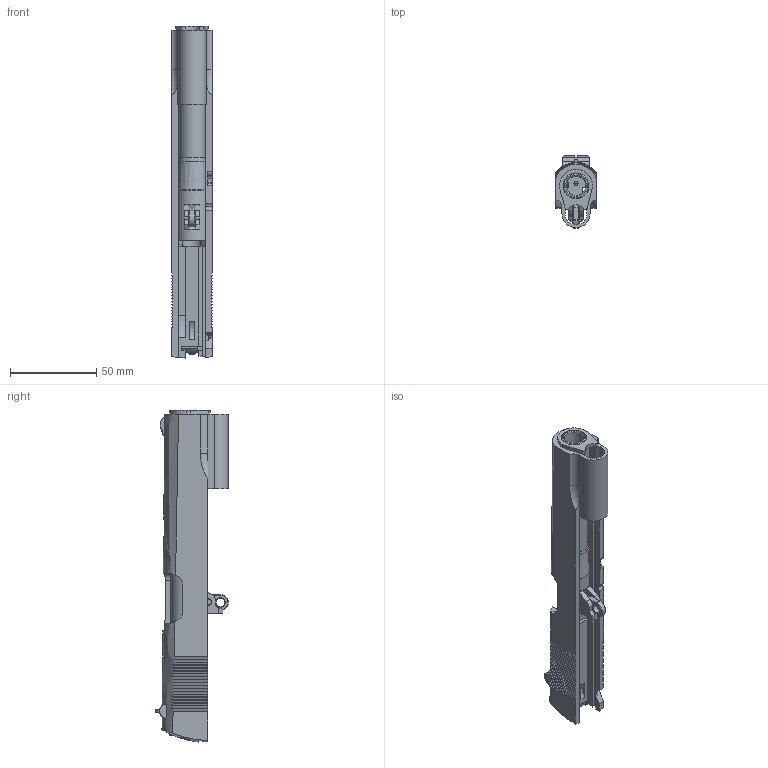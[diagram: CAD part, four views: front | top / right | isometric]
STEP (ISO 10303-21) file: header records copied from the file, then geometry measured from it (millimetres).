
FILE_DESCRIPTION (( 'STEP AP203' ), '1' );
FILE_NAME ('slide.STEP', '2013-03-15T17:59:38', ( '' ), ( '' ), 'SwSTEP 2.0', 'SolidWorks 2013', '' );
FILE_SCHEMA (( 'CONFIG_CONTROL_DESIGN' ));
Length unit declared in the file: inch
Products named in the file (12): 32_Bushing_Barrel_Varsay考an; 34_Pin_Barrel_Link_Varsay考an; 28_Pin_firing_Varsay考an; 24_Slide; 27_Spring_Firing_Pin; 25_Sight_Front_Varsay考an; slide; 29_Extractor_Varsay考an; 31_Barrel; 33_Link_Barrel_Varsay考an; 26_Sight_Rear_Varsay考an; 30_Stop_Firing_Pin_Varsay考an
Assembly tree (11 placements, depth 2):
  slide
    24_Slide
    31_Barrel
    32_Bushing_Barrel_Varsay考an
    25_Sight_Front_Varsay考an
    26_Sight_Rear_Varsay考an
    28_Pin_firing_Varsay考an
    29_Extractor_Varsay考an
    30_Stop_Firing_Pin_Varsay考an
    27_Spring_Firing_Pin
    33_Link_Barrel_Varsay考an
    34_Pin_Barrel_Link_Varsay考an
Bounding box: 23.27 x 42.26 x 191.99 mm (x, y, z)
Volume: 66021.5 mm3; surface area: 48896.9 mm2
Topology: 11 solids, 11 shells, 567 faces, 1509 edges, 962 vertices
Faces by surface type: plane 315, cylinder 165, cone 49, torus 32, sphere 3, bspline 3
Entity records: 27556 total; most frequent: CARTESIAN_POINT 12279, ORIENTED_EDGE 3014, DIRECTION 2859, EDGE_CURVE 1507, AXIS2_PLACEMENT_3D 1003, VERTEX_POINT 962, VECTOR 853, LINE 853
